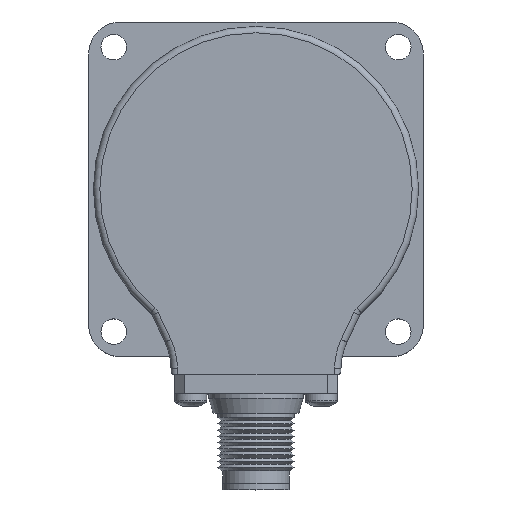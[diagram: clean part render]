
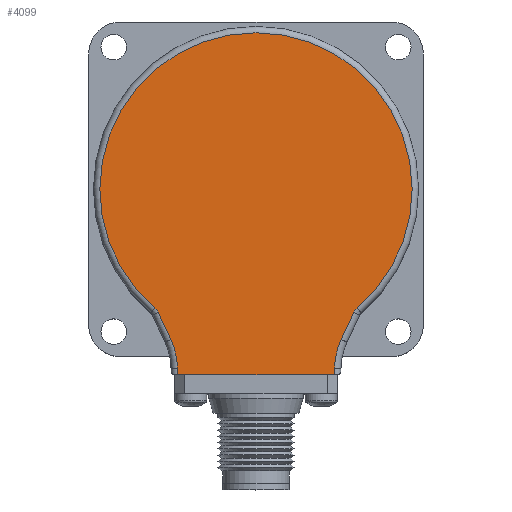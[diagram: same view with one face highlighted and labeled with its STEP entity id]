
A CAD part, top view. The second image highlights one B-rep face of the part: STEP entity #4099.
In plain terms, the highlighted planar face has unit normal (0, 0, 1).
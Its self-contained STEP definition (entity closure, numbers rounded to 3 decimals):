
#4007=CARTESIAN_POINT('',(0.,-4.266,0.0));
#4008=DIRECTION('',(0.0,0.0,1.0));
#4009=DIRECTION('',(1.0,0.0,0.0));
#4010=AXIS2_PLACEMENT_3D('',#4007,#4008,#4009);
#4011=PLANE('',#4010);
#4012=CARTESIAN_POINT('',(-12.25,-29.,0.0));
#4013=VERTEX_POINT('',#4012);
#4014=CARTESIAN_POINT('',(-12.267,-27.991,0.0));
#4015=VERTEX_POINT('',#4014);
#4016=CARTESIAN_POINT('',(-12.25,-29.,0.0));
#4017=DIRECTION('',(-0.017,1.,0.0));
#4018=VECTOR('',#4017,1.009);
#4019=LINE('',#4016,#4018);
#4020=EDGE_CURVE('',#4013,#4015,#4019,.T.);
#4021=ORIENTED_EDGE('',*,*,#4020,.F.);
#4022=CARTESIAN_POINT('',(12.25,-29.,0.0));
#4023=VERTEX_POINT('',#4022);
#4024=CARTESIAN_POINT('',(12.25,-29.,0.0));
#4025=DIRECTION('',(-1.0,0.0,0.0));
#4026=VECTOR('',#4025,24.5);
#4027=LINE('',#4024,#4026);
#4028=EDGE_CURVE('',#4023,#4013,#4027,.T.);
#4029=ORIENTED_EDGE('',*,*,#4028,.F.);
#4030=CARTESIAN_POINT('',(12.267,-27.991,0.0));
#4031=VERTEX_POINT('',#4030);
#4032=CARTESIAN_POINT('',(12.267,-27.991,0.0));
#4033=DIRECTION('',(-0.017,-1.,0.0));
#4034=VECTOR('',#4033,1.009);
#4035=LINE('',#4032,#4034);
#4036=EDGE_CURVE('',#4031,#4023,#4035,.T.);
#4037=ORIENTED_EDGE('',*,*,#4036,.F.);
#4038=CARTESIAN_POINT('',(13.296,-23.534,0.0));
#4039=VERTEX_POINT('',#4038);
#4040=CARTESIAN_POINT('',(23.266,-28.183,0.0));
#4041=DIRECTION('',(0.0,0.0,1.));
#4042=DIRECTION('',(-0.974,0.225,0.0));
#4043=AXIS2_PLACEMENT_3D('',#4040,#4041,#4042);
#4044=CIRCLE('',#4043,11.);
#4045=EDGE_CURVE('',#4039,#4031,#4044,.T.);
#4046=ORIENTED_EDGE('',*,*,#4045,.F.);
#4047=CARTESIAN_POINT('',(15.285,-19.271,0.0));
#4048=VERTEX_POINT('',#4047);
#4049=CARTESIAN_POINT('',(15.285,-19.271,0.0));
#4050=DIRECTION('',(-0.423,-0.906,0.0));
#4051=VECTOR('',#4050,4.705);
#4052=LINE('',#4049,#4051);
#4053=EDGE_CURVE('',#4048,#4039,#4052,.T.);
#4054=ORIENTED_EDGE('',*,*,#4053,.F.);
#4055=CARTESIAN_POINT('',(15.802,-18.592,0.0));
#4056=VERTEX_POINT('',#4055);
#4057=CARTESIAN_POINT('',(17.097,-20.116,0.0));
#4058=DIRECTION('',(0.0,0.0,1.0));
#4059=DIRECTION('',(-0.795,0.606,0.0));
#4060=AXIS2_PLACEMENT_3D('',#4057,#4058,#4059);
#4061=CIRCLE('',#4060,2.);
#4062=EDGE_CURVE('',#4056,#4048,#4061,.T.);
#4063=ORIENTED_EDGE('',*,*,#4062,.F.);
#4064=CARTESIAN_POINT('',(-15.802,-18.592,0.0));
#4065=VERTEX_POINT('',#4064);
#4066=CARTESIAN_POINT('',(0.0,0.0,0.0));
#4067=DIRECTION('',(0.0,0.0,-1.0));
#4068=DIRECTION('',(0.,1.0,0.0));
#4069=AXIS2_PLACEMENT_3D('',#4066,#4067,#4068);
#4070=CIRCLE('',#4069,24.4);
#4071=EDGE_CURVE('',#4065,#4056,#4070,.T.);
#4072=ORIENTED_EDGE('',*,*,#4071,.F.);
#4073=CARTESIAN_POINT('',(-15.285,-19.271,0.0));
#4074=VERTEX_POINT('',#4073);
#4075=CARTESIAN_POINT('',(-17.097,-20.116,0.0));
#4076=DIRECTION('',(0.0,0.0,1.0));
#4077=DIRECTION('',(0.795,0.606,0.0));
#4078=AXIS2_PLACEMENT_3D('',#4075,#4076,#4077);
#4079=CIRCLE('',#4078,2.);
#4080=EDGE_CURVE('',#4074,#4065,#4079,.T.);
#4081=ORIENTED_EDGE('',*,*,#4080,.F.);
#4082=CARTESIAN_POINT('',(-13.296,-23.534,0.0));
#4083=VERTEX_POINT('',#4082);
#4084=CARTESIAN_POINT('',(-13.296,-23.534,0.0));
#4085=DIRECTION('',(-0.423,0.906,0.0));
#4086=VECTOR('',#4085,4.705);
#4087=LINE('',#4084,#4086);
#4088=EDGE_CURVE('',#4083,#4074,#4087,.T.);
#4089=ORIENTED_EDGE('',*,*,#4088,.F.);
#4090=CARTESIAN_POINT('',(-23.266,-28.183,0.0));
#4091=DIRECTION('',(0.0,0.0,1.0));
#4092=DIRECTION('',(0.974,0.225,0.0));
#4093=AXIS2_PLACEMENT_3D('',#4090,#4091,#4092);
#4094=CIRCLE('',#4093,11.);
#4095=EDGE_CURVE('',#4015,#4083,#4094,.T.);
#4096=ORIENTED_EDGE('',*,*,#4095,.F.);
#4097=EDGE_LOOP('',(#4021,#4029,#4037,#4046,#4054,#4063,#4072,#4081,#4089,#4096));
#4098=FACE_OUTER_BOUND('',#4097,.T.);
#4099=ADVANCED_FACE('',(#4098),#4011,.T.);
